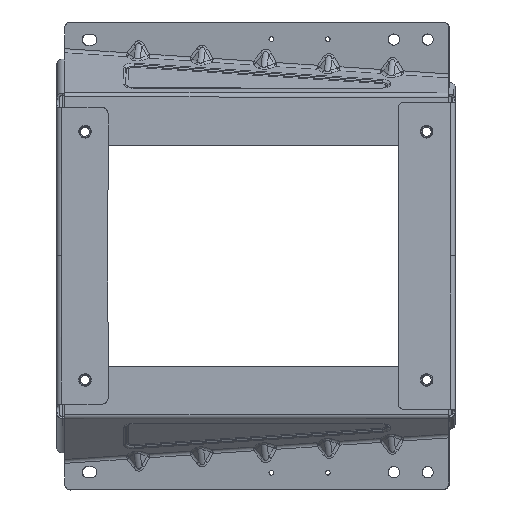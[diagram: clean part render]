
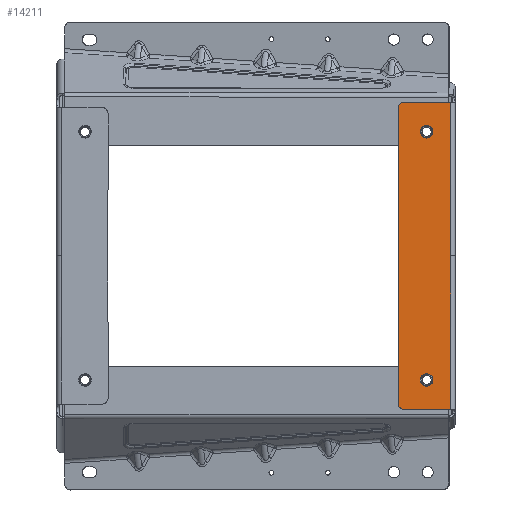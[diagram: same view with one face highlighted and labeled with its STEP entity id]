
A CAD part, top view. The second image highlights one B-rep face of the part: STEP entity #14211.
In plain terms, the highlighted planar face has unit normal (0, 0, 1).
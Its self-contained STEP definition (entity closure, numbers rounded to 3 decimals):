
#14069=AXIS2_PLACEMENT_3D('Circle Axis2P3D',#14067,#14068,$) ;
#14082=AXIS2_PLACEMENT_3D('Plane Axis2P3D',#14079,#14080,#14081) ;
#14086=AXIS2_PLACEMENT_3D('Circle Axis2P3D',#14084,#14085,$) ;
#14095=AXIS2_PLACEMENT_3D('Circle Axis2P3D',#14093,#14094,$) ;
#14114=AXIS2_PLACEMENT_3D('Circle Axis2P3D',#14112,#14113,$) ;
#14145=AXIS2_PLACEMENT_3D('Circle Axis2P3D',#14143,#14144,$) ;
#14154=AXIS2_PLACEMENT_3D('Circle Axis2P3D',#14152,#14153,$) ;
#14161=AXIS2_PLACEMENT_3D('Circle Axis2P3D',#14159,#14160,$) ;
#14168=AXIS2_PLACEMENT_3D('Circle Axis2P3D',#14166,#14167,$) ;
#14179=AXIS2_PLACEMENT_3D('Circle Axis2P3D',#14177,#14178,$) ;
#14188=AXIS2_PLACEMENT_3D('Circle Axis2P3D',#14186,#14187,$) ;
#14195=AXIS2_PLACEMENT_3D('Circle Axis2P3D',#14193,#14194,$) ;
#14202=AXIS2_PLACEMENT_3D('Circle Axis2P3D',#14200,#14201,$) ;
#12827=CARTESIAN_POINT('Vertex',(1112.486,-536.014,118.288)) ;
#12846=CARTESIAN_POINT('Vertex',(1071.486,-535.991,118.288)) ;
#12849=CARTESIAN_POINT('Line Origine',(1091.986,-536.003,118.288)) ;
#13876=CARTESIAN_POINT('Line Origine',(1112.411,-671.002,118.288)) ;
#13880=CARTESIAN_POINT('Vertex',(1112.411,-671.002,118.288)) ;
#14064=CARTESIAN_POINT('Vertex',(1067.95,-537.454,118.288)) ;
#14067=CARTESIAN_POINT('Axis2P3D Location',(1071.483,-540.991,118.288)) ;
#14079=CARTESIAN_POINT('Axis2P3D Location',(1116.411,-670.988,118.288)) ;
#14084=CARTESIAN_POINT('Axis2P3D Location',(1071.483,-801.013,118.288)) ;
#14088=CARTESIAN_POINT('Vertex',(1067.95,-804.551,118.288)) ;
#14090=CARTESIAN_POINT('Vertex',(1066.483,-801.016,118.288)) ;
#14093=CARTESIAN_POINT('Axis2P3D Location',(1071.483,-801.013,118.288)) ;
#14097=CARTESIAN_POINT('Vertex',(1071.486,-806.013,118.288)) ;
#14100=CARTESIAN_POINT('Line Origine',(1091.986,-806.002,118.288)) ;
#14104=CARTESIAN_POINT('Vertex',(1112.486,-805.991,118.288)) ;
#14107=CARTESIAN_POINT('Line Origine',(1112.448,-738.496,118.288)) ;
#14112=CARTESIAN_POINT('Axis2P3D Location',(1071.483,-540.991,118.288)) ;
#14116=CARTESIAN_POINT('Vertex',(1066.483,-540.989,118.288)) ;
#14119=CARTESIAN_POINT('Line Origine',(1066.447,-605.995,118.288)) ;
#14123=CARTESIAN_POINT('Vertex',(1066.411,-671.002,118.288)) ;
#14126=CARTESIAN_POINT('Line Origine',(1066.447,-736.009,118.288)) ;
#14143=CARTESIAN_POINT('Axis2P3D Location',(1091.321,-562.002,118.288)) ;
#14147=CARTESIAN_POINT('Vertex',(1096.821,-562.002,118.288)) ;
#14149=CARTESIAN_POINT('Vertex',(1091.321,-567.502,118.288)) ;
#14152=CARTESIAN_POINT('Axis2P3D Location',(1091.321,-562.002,118.288)) ;
#14156=CARTESIAN_POINT('Vertex',(1085.821,-562.002,118.288)) ;
#14159=CARTESIAN_POINT('Axis2P3D Location',(1091.321,-562.002,118.288)) ;
#14163=CARTESIAN_POINT('Vertex',(1091.321,-556.502,118.288)) ;
#14166=CARTESIAN_POINT('Axis2P3D Location',(1091.321,-562.002,118.288)) ;
#14177=CARTESIAN_POINT('Axis2P3D Location',(1091.321,-780.002,118.288)) ;
#14181=CARTESIAN_POINT('Vertex',(1085.821,-780.002,118.288)) ;
#14183=CARTESIAN_POINT('Vertex',(1091.321,-774.502,118.288)) ;
#14186=CARTESIAN_POINT('Axis2P3D Location',(1091.321,-780.002,118.288)) ;
#14190=CARTESIAN_POINT('Vertex',(1096.821,-780.002,118.288)) ;
#14193=CARTESIAN_POINT('Axis2P3D Location',(1091.321,-780.002,118.288)) ;
#14197=CARTESIAN_POINT('Vertex',(1091.321,-785.502,118.288)) ;
#14200=CARTESIAN_POINT('Axis2P3D Location',(1091.321,-780.002,118.288)) ;
#12850=DIRECTION('Vector Direction',(1.,-0.001,0.)) ;
#13877=DIRECTION('Vector Direction',(-0.001,-1.,0.)) ;
#14068=DIRECTION('Axis2P3D Direction',(0.,0.,1.)) ;
#14080=DIRECTION('Axis2P3D Direction',(0.,0.,1.)) ;
#14081=DIRECTION('Axis2P3D XDirection',(1.,0.,0.)) ;
#14085=DIRECTION('Axis2P3D Direction',(0.,0.,1.)) ;
#14094=DIRECTION('Axis2P3D Direction',(0.,0.,1.)) ;
#14101=DIRECTION('Vector Direction',(1.,0.001,0.)) ;
#14108=DIRECTION('Vector Direction',(0.001,-1.,0.)) ;
#14113=DIRECTION('Axis2P3D Direction',(0.,0.,1.)) ;
#14120=DIRECTION('Vector Direction',(-0.001,-1.,0.)) ;
#14127=DIRECTION('Vector Direction',(0.001,-1.,0.)) ;
#14144=DIRECTION('Axis2P3D Direction',(0.,0.,1.)) ;
#14153=DIRECTION('Axis2P3D Direction',(0.,0.,1.)) ;
#14160=DIRECTION('Axis2P3D Direction',(0.,0.,1.)) ;
#14167=DIRECTION('Axis2P3D Direction',(0.,0.,1.)) ;
#14178=DIRECTION('Axis2P3D Direction',(0.,0.,1.)) ;
#14187=DIRECTION('Axis2P3D Direction',(0.,0.,1.)) ;
#14194=DIRECTION('Axis2P3D Direction',(0.,0.,1.)) ;
#14201=DIRECTION('Axis2P3D Direction',(0.,0.,1.)) ;
#12851=VECTOR('Line Direction',#12850,1.) ;
#13878=VECTOR('Line Direction',#13877,1.) ;
#14102=VECTOR('Line Direction',#14101,1.) ;
#14109=VECTOR('Line Direction',#14108,1.) ;
#14121=VECTOR('Line Direction',#14120,1.) ;
#14128=VECTOR('Line Direction',#14127,1.) ;
#14132=ORIENTED_EDGE('',*,*,#14092,.F.) ;
#14133=ORIENTED_EDGE('',*,*,#14099,.T.) ;
#14134=ORIENTED_EDGE('',*,*,#14106,.T.) ;
#14135=ORIENTED_EDGE('',*,*,#14111,.T.) ;
#14136=ORIENTED_EDGE('',*,*,#13882,.T.) ;
#14137=ORIENTED_EDGE('',*,*,#12853,.F.) ;
#14138=ORIENTED_EDGE('',*,*,#14071,.F.) ;
#14139=ORIENTED_EDGE('',*,*,#14118,.F.) ;
#14140=ORIENTED_EDGE('',*,*,#14125,.T.) ;
#14141=ORIENTED_EDGE('',*,*,#14130,.T.) ;
#14172=ORIENTED_EDGE('',*,*,#14151,.T.) ;
#14173=ORIENTED_EDGE('',*,*,#14158,.T.) ;
#14174=ORIENTED_EDGE('',*,*,#14165,.F.) ;
#14175=ORIENTED_EDGE('',*,*,#14170,.F.) ;
#14206=ORIENTED_EDGE('',*,*,#14185,.T.) ;
#14207=ORIENTED_EDGE('',*,*,#14192,.T.) ;
#14208=ORIENTED_EDGE('',*,*,#14199,.F.) ;
#14209=ORIENTED_EDGE('',*,*,#14204,.F.) ;
#14176=FACE_BOUND('',#14171,.T.) ;
#14210=FACE_BOUND('',#14205,.T.) ;
#14211=ADVANCED_FACE('\X2\5E955EA7540E677F\X0\\\\X2\51E04F554F53\X0\.2',(#14142,#14176,#14210),#14083,.T.) ;
#14070=CIRCLE('generated circle',#14069,5.) ;
#14087=CIRCLE('generated circle',#14086,5.) ;
#14096=CIRCLE('generated circle',#14095,5.) ;
#14115=CIRCLE('generated circle',#14114,5.) ;
#14146=CIRCLE('generated circle',#14145,5.5) ;
#14155=CIRCLE('generated circle',#14154,5.5) ;
#14162=CIRCLE('generated circle',#14161,5.5) ;
#14169=CIRCLE('generated circle',#14168,5.5) ;
#14180=CIRCLE('generated circle',#14179,5.5) ;
#14189=CIRCLE('generated circle',#14188,5.5) ;
#14196=CIRCLE('generated circle',#14195,5.5) ;
#14203=CIRCLE('generated circle',#14202,5.5) ;
#12853=EDGE_CURVE('',#12847,#12828,#12852,.T.) ;
#13882=EDGE_CURVE('',#13881,#12828,#13879,.F.) ;
#14071=EDGE_CURVE('',#14065,#12847,#14070,.F.) ;
#14092=EDGE_CURVE('',#14089,#14091,#14087,.F.) ;
#14099=EDGE_CURVE('',#14089,#14098,#14096,.T.) ;
#14106=EDGE_CURVE('',#14098,#14105,#14103,.T.) ;
#14111=EDGE_CURVE('',#14105,#13881,#14110,.F.) ;
#14118=EDGE_CURVE('',#14117,#14065,#14115,.F.) ;
#14125=EDGE_CURVE('',#14117,#14124,#14122,.T.) ;
#14130=EDGE_CURVE('',#14124,#14091,#14129,.T.) ;
#14151=EDGE_CURVE('',#14148,#14150,#14146,.F.) ;
#14158=EDGE_CURVE('',#14150,#14157,#14155,.F.) ;
#14165=EDGE_CURVE('',#14164,#14157,#14162,.T.) ;
#14170=EDGE_CURVE('',#14148,#14164,#14169,.T.) ;
#14185=EDGE_CURVE('',#14182,#14184,#14180,.F.) ;
#14192=EDGE_CURVE('',#14184,#14191,#14189,.F.) ;
#14199=EDGE_CURVE('',#14198,#14191,#14196,.T.) ;
#14204=EDGE_CURVE('',#14182,#14198,#14203,.T.) ;
#14131=EDGE_LOOP('',(#14132,#14133,#14134,#14135,#14136,#14137,#14138,#14139,#14140,#14141)) ;
#14171=EDGE_LOOP('',(#14172,#14173,#14174,#14175)) ;
#14205=EDGE_LOOP('',(#14206,#14207,#14208,#14209)) ;
#14142=FACE_OUTER_BOUND('',#14131,.T.) ;
#12852=LINE('Line',#12849,#12851) ;
#13879=LINE('Line',#13876,#13878) ;
#14103=LINE('Line',#14100,#14102) ;
#14110=LINE('Line',#14107,#14109) ;
#14122=LINE('Line',#14119,#14121) ;
#14129=LINE('Line',#14126,#14128) ;
#14083=PLANE('Plane',#14082) ;
#12828=VERTEX_POINT('',#12827) ;
#12847=VERTEX_POINT('',#12846) ;
#13881=VERTEX_POINT('',#13880) ;
#14065=VERTEX_POINT('',#14064) ;
#14089=VERTEX_POINT('',#14088) ;
#14091=VERTEX_POINT('',#14090) ;
#14098=VERTEX_POINT('',#14097) ;
#14105=VERTEX_POINT('',#14104) ;
#14117=VERTEX_POINT('',#14116) ;
#14124=VERTEX_POINT('',#14123) ;
#14148=VERTEX_POINT('',#14147) ;
#14150=VERTEX_POINT('',#14149) ;
#14157=VERTEX_POINT('',#14156) ;
#14164=VERTEX_POINT('',#14163) ;
#14182=VERTEX_POINT('',#14181) ;
#14184=VERTEX_POINT('',#14183) ;
#14191=VERTEX_POINT('',#14190) ;
#14198=VERTEX_POINT('',#14197) ;
